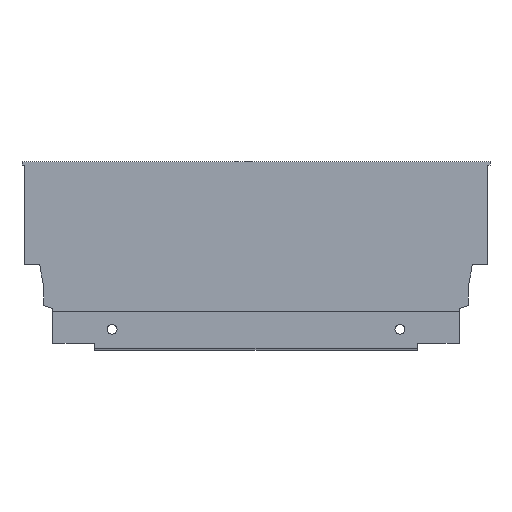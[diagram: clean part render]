
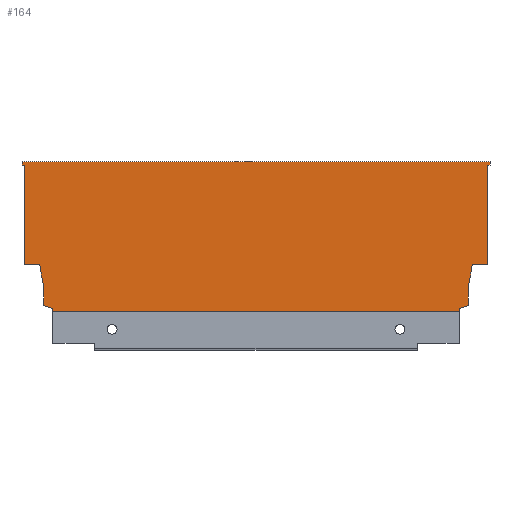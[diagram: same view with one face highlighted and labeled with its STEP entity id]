
A CAD part, top view. The second image highlights one B-rep face of the part: STEP entity #164.
In plain terms, the highlighted planar face has unit normal (0, 0, 1).
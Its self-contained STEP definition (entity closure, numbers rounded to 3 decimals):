
#36 = ORIENTED_EDGE ( 'NONE', *, *, #310, .T. ) ;
#39 = ORIENTED_EDGE ( 'NONE', *, *, #307, .F. ) ;
#43 = ORIENTED_EDGE ( 'NONE', *, *, #302, .F. ) ;
#44 = ORIENTED_EDGE ( 'NONE', *, *, #303, .F. ) ;
#45 = ORIENTED_EDGE ( 'NONE', *, *, #305, .F. ) ;
#46 = ORIENTED_EDGE ( 'NONE', *, *, #299, .F. ) ;
#47 = ORIENTED_EDGE ( 'NONE', *, *, #322, .F. ) ;
#48 = ORIENTED_EDGE ( 'NONE', *, *, #301, .F. ) ;
#49 = ORIENTED_EDGE ( 'NONE', *, *, #297, .F. ) ;
#56 = ORIENTED_EDGE ( 'NONE', *, *, #309, .T. ) ;
#57 = ORIENTED_EDGE ( 'NONE', *, *, #308, .F. ) ;
#107 = ORIENTED_EDGE ( 'NONE', *, *, #312, .T. ) ;
#108 = ORIENTED_EDGE ( 'NONE', *, *, #304, .F. ) ;
#110 = ORIENTED_EDGE ( 'NONE', *, *, #306, .F. ) ;
#122 = ORIENTED_EDGE ( 'NONE', *, *, #315, .F. ) ;
#133 = ORIENTED_EDGE ( 'NONE', *, *, #311, .F. ) ;
#134 = ORIENTED_EDGE ( 'NONE', *, *, #300, .F. ) ;
#135 = ORIENTED_EDGE ( 'NONE', *, *, #298, .F. ) ;
#164 = ADVANCED_FACE ( 'NONE', ( #613 ), #1088, .T. ) ;
#297 = EDGE_CURVE ( 'NONE', #980, #1017, #834, .T. ) ;
#298 = EDGE_CURVE ( 'NONE', #1046, #1002, #836, .T. ) ;
#299 = EDGE_CURVE ( 'NONE', #1017, #1060, #838, .T. ) ;
#300 = EDGE_CURVE ( 'NONE', #1002, #1021, #809, .T. ) ;
#301 = EDGE_CURVE ( 'NONE', #1057, #1033, #842, .T. ) ;
#302 = EDGE_CURVE ( 'NONE', #1000, #1047, #844, .T. ) ;
#303 = EDGE_CURVE ( 'NONE', #1033, #1051, #846, .T. ) ;
#304 = EDGE_CURVE ( 'NONE', #1030, #982, #848, .T. ) ;
#305 = EDGE_CURVE ( 'NONE', #1051, #1046, #850, .T. ) ;
#306 = EDGE_CURVE ( 'NONE', #1004, #980, #852, .T. ) ;
#307 = EDGE_CURVE ( 'NONE', #1047, #1030, #827, .T. ) ;
#308 = EDGE_CURVE ( 'NONE', #1038, #983, #856, .T. ) ;
#309 = EDGE_CURVE ( 'NONE', #1018, #983, #858, .T. ) ;
#310 = EDGE_CURVE ( 'NONE', #1035, #1018, #829, .T. ) ;
#311 = EDGE_CURVE ( 'NONE', #1035, #1004, #862, .T. ) ;
#312 = EDGE_CURVE ( 'NONE', #1000, #1021, #864, .T. ) ;
#315 = EDGE_CURVE ( 'NONE', #982, #1038, #855, .T. ) ;
#322 = EDGE_CURVE ( 'NONE', #1060, #1057, #883, .T. ) ;
#357 = AXIS2_PLACEMENT_3D ( 'NONE', #1089, #1085, #1086 ) ;
#590 = EDGE_LOOP ( 'NONE', ( #110, #133, #36, #56, #57, #122, #108, #39, #43, #107, #134, #135, #45, #44, #48, #47, #46, #49 ) ) ;
#613 = FACE_OUTER_BOUND ( 'NONE', #590, .T. ) ;
#809 = LINE ( 'NONE', #1389, #840 ) ;
#827 = LINE ( 'NONE', #1401, #854 ) ;
#829 = LINE ( 'NONE', #1415, #860 ) ;
#834 = LINE ( 'NONE', #1395, #835 ) ;
#835 = VECTOR ( 'NONE', #1396, 1000. ) ;
#836 = LINE ( 'NONE', #1397, #837 ) ;
#837 = VECTOR ( 'NONE', #1398, 1000. ) ;
#838 = LINE ( 'NONE', #1399, #839 ) ;
#839 = VECTOR ( 'NONE', #1400, 1000. ) ;
#840 = VECTOR ( 'NONE', #1402, 1000. ) ;
#841 = VECTOR ( 'NONE', #1433, 1000. ) ;
#842 = LINE ( 'NONE', #1403, #843 ) ;
#843 = VECTOR ( 'NONE', #1404, 1000. ) ;
#844 = LINE ( 'NONE', #1405, #845 ) ;
#845 = VECTOR ( 'NONE', #1406, 1000. ) ;
#846 = LINE ( 'NONE', #1407, #847 ) ;
#847 = VECTOR ( 'NONE', #1408, 1000. ) ;
#848 = LINE ( 'NONE', #1409, #849 ) ;
#849 = VECTOR ( 'NONE', #1410, 1000. ) ;
#850 = LINE ( 'NONE', #1411, #851 ) ;
#851 = VECTOR ( 'NONE', #1412, 1000. ) ;
#852 = LINE ( 'NONE', #1413, #853 ) ;
#853 = VECTOR ( 'NONE', #1414, 1000. ) ;
#854 = VECTOR ( 'NONE', #1416, 1000. ) ;
#855 = LINE ( 'NONE', #1432, #841 ) ;
#856 = LINE ( 'NONE', #1417, #857 ) ;
#857 = VECTOR ( 'NONE', #1418, 1000. ) ;
#858 = LINE ( 'NONE', #1420, #859 ) ;
#859 = VECTOR ( 'NONE', #1421, 1000. ) ;
#860 = VECTOR ( 'NONE', #1423, 1000. ) ;
#862 = LINE ( 'NONE', #1424, #863 ) ;
#863 = VECTOR ( 'NONE', #1425, 1000. ) ;
#864 = LINE ( 'NONE', #1426, #865 ) ;
#865 = VECTOR ( 'NONE', #1427, 1000. ) ;
#883 = LINE ( 'NONE', #1446, #884 ) ;
#884 = VECTOR ( 'NONE', #1447, 1000. ) ;
#980 = VERTEX_POINT ( 'NONE', #1502 ) ;
#982 = VERTEX_POINT ( 'NONE', #1503 ) ;
#983 = VERTEX_POINT ( 'NONE', #1504 ) ;
#1000 = VERTEX_POINT ( 'NONE', #1521 ) ;
#1002 = VERTEX_POINT ( 'NONE', #1523 ) ;
#1004 = VERTEX_POINT ( 'NONE', #1525 ) ;
#1017 = VERTEX_POINT ( 'NONE', #1538 ) ;
#1018 = VERTEX_POINT ( 'NONE', #1539 ) ;
#1021 = VERTEX_POINT ( 'NONE', #1542 ) ;
#1030 = VERTEX_POINT ( 'NONE', #1551 ) ;
#1033 = VERTEX_POINT ( 'NONE', #1554 ) ;
#1035 = VERTEX_POINT ( 'NONE', #1556 ) ;
#1038 = VERTEX_POINT ( 'NONE', #1559 ) ;
#1046 = VERTEX_POINT ( 'NONE', #1566 ) ;
#1047 = VERTEX_POINT ( 'NONE', #1567 ) ;
#1051 = VERTEX_POINT ( 'NONE', #1571 ) ;
#1057 = VERTEX_POINT ( 'NONE', #1577 ) ;
#1060 = VERTEX_POINT ( 'NONE', #1580 ) ;
#1085 = DIRECTION ( 'NONE',  ( 0., 0., 1. ) ) ;
#1086 = DIRECTION ( 'NONE',  ( 1., 0., 0. ) ) ;
#1088 = PLANE ( 'NONE',  #357 ) ;
#1089 = CARTESIAN_POINT ( 'NONE',  ( -211., 0., 7.5 ) ) ;
#1389 = CARTESIAN_POINT ( 'NONE',  ( -13.004, 1.146, 7.5 ) ) ;
#1395 = CARTESIAN_POINT ( 'NONE',  ( 1., 68., 7.5 ) ) ;
#1396 = DIRECTION ( 'NONE',  ( 0., -1., 0. ) ) ;
#1397 = CARTESIAN_POINT ( 'NONE',  ( -8.9, 2.64, 7.5 ) ) ;
#1398 = DIRECTION ( 'NONE',  ( -0.94, -0.342, 0. ) ) ;
#1399 = CARTESIAN_POINT ( 'NONE',  ( 1., 66.5, 7.5 ) ) ;
#1400 = DIRECTION ( 'NONE',  ( -1., 0., 0. ) ) ;
#1401 = CARTESIAN_POINT ( 'NONE',  ( -202.1, 2.64, 7.5 ) ) ;
#1402 = DIRECTION ( 'NONE',  ( 0., -1., 0. ) ) ;
#1403 = CARTESIAN_POINT ( 'NONE',  ( 0., 21.2, 7.5 ) ) ;
#1404 = DIRECTION ( 'NONE',  ( -1., 0., 0. ) ) ;
#1405 = CARTESIAN_POINT ( 'NONE',  ( -197.996, 1.146, 7.5 ) ) ;
#1406 = DIRECTION ( 'NONE',  ( 0., 1., 0. ) ) ;
#1407 = CARTESIAN_POINT ( 'NONE',  ( -7.06, 21.2, 7.5 ) ) ;
#1408 = DIRECTION ( 'NONE',  ( -0.174, -0.985, 0. ) ) ;
#1409 = CARTESIAN_POINT ( 'NONE',  ( -202.1, 10.765, 7.5 ) ) ;
#1410 = DIRECTION ( 'NONE',  ( 0., 1., 0. ) ) ;
#1411 = CARTESIAN_POINT ( 'NONE',  ( -8.9, 10.765, 7.5 ) ) ;
#1412 = DIRECTION ( 'NONE',  ( 0., -1., 0. ) ) ;
#1413 = CARTESIAN_POINT ( 'NONE',  ( -211., 68., 7.5 ) ) ;
#1414 = DIRECTION ( 'NONE',  ( 1., 0., 0. ) ) ;
#1415 = CARTESIAN_POINT ( 'NONE',  ( -212., 66.5, 7.5 ) ) ;
#1416 = DIRECTION ( 'NONE',  ( -0.94, 0.342, 0. ) ) ;
#1417 = CARTESIAN_POINT ( 'NONE',  ( -216., 21.2, 7.5 ) ) ;
#1418 = DIRECTION ( 'NONE',  ( -1., 0., 0. ) ) ;
#1420 = CARTESIAN_POINT ( 'NONE',  ( -211., 0., 7.5 ) ) ;
#1421 = DIRECTION ( 'NONE',  ( 0., -1., 0. ) ) ;
#1423 = DIRECTION ( 'NONE',  ( 1., 0., 0. ) ) ;
#1424 = CARTESIAN_POINT ( 'NONE',  ( -212., 66.5, 7.5 ) ) ;
#1425 = DIRECTION ( 'NONE',  ( 0., 1., 0. ) ) ;
#1426 = CARTESIAN_POINT ( 'NONE',  ( -211., 0., 7.5 ) ) ;
#1427 = DIRECTION ( 'NONE',  ( 1., 0., 0. ) ) ;
#1432 = CARTESIAN_POINT ( 'NONE',  ( -203.94, 21.2, 7.5 ) ) ;
#1433 = DIRECTION ( 'NONE',  ( -0.174, 0.985, 0. ) ) ;
#1446 = CARTESIAN_POINT ( 'NONE',  ( 0., 0., 7.5 ) ) ;
#1447 = DIRECTION ( 'NONE',  ( 0., -1., 0. ) ) ;
#1502 = CARTESIAN_POINT ( 'NONE',  ( 1., 68., 7.5 ) ) ;
#1503 = CARTESIAN_POINT ( 'NONE',  ( -202.1, 10.765, 7.5 ) ) ;
#1504 = CARTESIAN_POINT ( 'NONE',  ( -211., 21.2, 7.5 ) ) ;
#1521 = CARTESIAN_POINT ( 'NONE',  ( -197.996, 0., 7.5 ) ) ;
#1523 = CARTESIAN_POINT ( 'NONE',  ( -13.004, 1.146, 7.5 ) ) ;
#1525 = CARTESIAN_POINT ( 'NONE',  ( -212., 68., 7.5 ) ) ;
#1538 = CARTESIAN_POINT ( 'NONE',  ( 1., 66.5, 7.5 ) ) ;
#1539 = CARTESIAN_POINT ( 'NONE',  ( -211., 66.5, 7.5 ) ) ;
#1542 = CARTESIAN_POINT ( 'NONE',  ( -13.004, 0., 7.5 ) ) ;
#1551 = CARTESIAN_POINT ( 'NONE',  ( -202.1, 2.64, 7.5 ) ) ;
#1554 = CARTESIAN_POINT ( 'NONE',  ( -7.06, 21.2, 7.5 ) ) ;
#1556 = CARTESIAN_POINT ( 'NONE',  ( -212., 66.5, 7.5 ) ) ;
#1559 = CARTESIAN_POINT ( 'NONE',  ( -203.94, 21.2, 7.5 ) ) ;
#1566 = CARTESIAN_POINT ( 'NONE',  ( -8.9, 2.64, 7.5 ) ) ;
#1567 = CARTESIAN_POINT ( 'NONE',  ( -197.996, 1.146, 7.5 ) ) ;
#1571 = CARTESIAN_POINT ( 'NONE',  ( -8.9, 10.765, 7.5 ) ) ;
#1577 = CARTESIAN_POINT ( 'NONE',  ( 0., 21.2, 7.5 ) ) ;
#1580 = CARTESIAN_POINT ( 'NONE',  ( 0., 66.5, 7.5 ) ) ;
